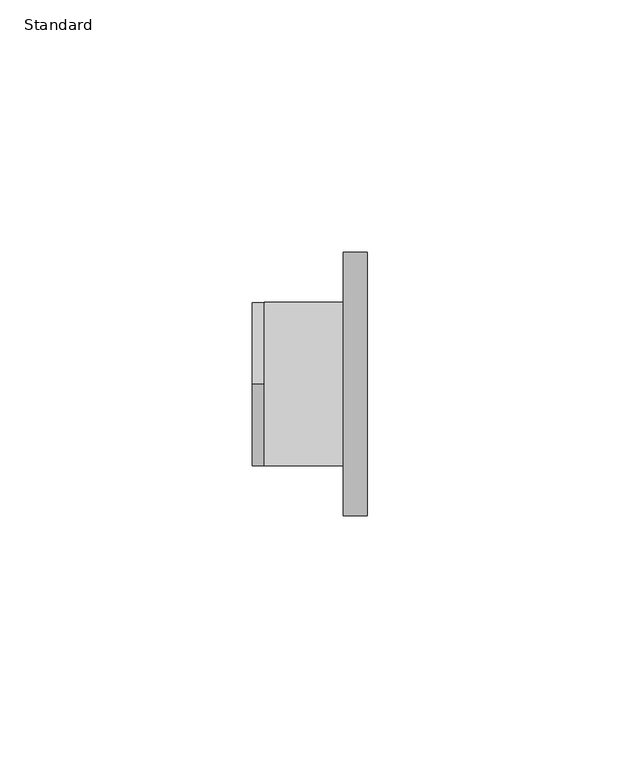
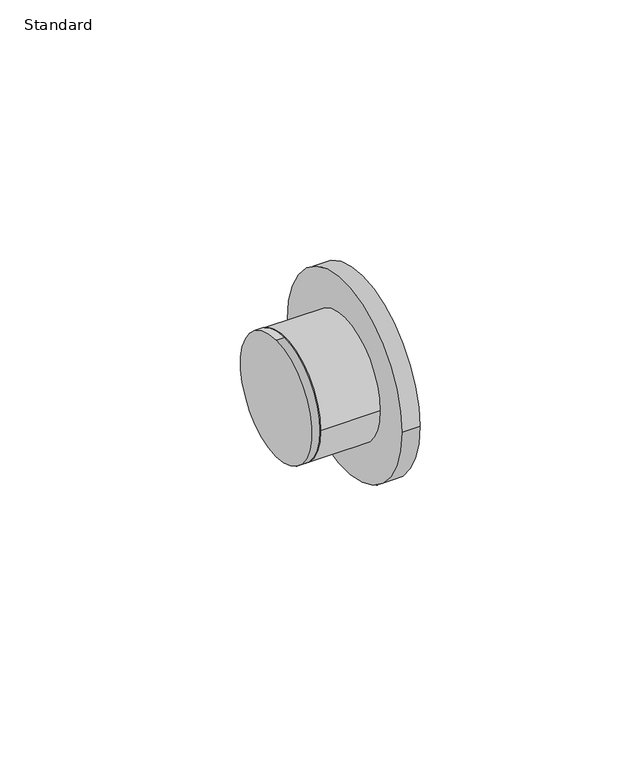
"""IFC4 building model written with IfcOpenShell, lengths in millimetres: pipe fitting geometry, Reducion Bushing_Lubrizol_CPVC_FlowGuard_MX : Standard."""

from ifc_helpers import new_model, si_unit, point, frame, origin, origin_2d, place, context, project, spatial, circle_curve, trimmed, segment, composite_curve, outline, extrude, source, transform, mapped, element, save


def standard_7a745ed6(model_context):
    return source(origin(), model_context, "Body", "SweptSolid", [
        extrude(outline(composite_curve([segment(trimmed(circle_curve(origin_2d(), 16.23), [point((-16.23, 0.0))], [point((16.23, 0.0))], False, "CARTESIAN"), True, "CONTINUOUS"), segment(trimmed(circle_curve(origin_2d(), 16.23), [point((16.23, 0.0))], [point((-16.23, 0.0))], False, "CARTESIAN"), True, "CONTINUOUS")], self_intersect=False)), frame((2.375, 0.0, 0.0), z_axis=(1.0, 0.0, 0.0), x_axis=(0.0, 1.0, 0.0)), (0.0, 0.0, 1.0), 15.694),
        extrude(outline(composite_curve([segment(trimmed(circle_curve(origin_2d(), 26.11), [point((-26.11, 0.0))], [point((26.11, 0.0))], False, "CARTESIAN"), True, "CONTINUOUS"), segment(trimmed(circle_curve(origin_2d(), 26.11), [point((26.11, 0.0))], [point((-26.11, 0.0))], False, "CARTESIAN"), True, "CONTINUOUS")], self_intersect=False)), frame((18.069, 0.0, 0.0), z_axis=(1.0, 0.0, 0.0), x_axis=(0.0, 1.0, 0.0)), (0.0, 0.0, 1.0), 4.75),
        extrude(outline(composite_curve([segment(trimmed(circle_curve(origin_2d(), 16.23), [point((0.0, 16.23))], [point((0.0, -16.23))], False, "CARTESIAN"), True, "CONTINUOUS"), segment(trimmed(circle_curve(origin_2d(), 16.23), [point((0.0, -16.23))], [point((0.0, 16.23))], False, "CARTESIAN"), True, "CONTINUOUS")], self_intersect=False)), frame((0.0, 0.0, 0.0), z_axis=(1.0, 0.0, 0.0), x_axis=(0.0, 1.0, 0.0)), (0.0, 0.0, 1.0), 2.375),
    ])


if __name__ == "__main__":
    model = new_model("IFC4")
    model_context = context("Model", 3, world=origin())
    ifc_project = project(units=[si_unit("LENGTHUNIT", "METRE", prefix="MILLI")], contexts=[model_context])
    site = spatial("IfcSite", under=ifc_project)
    building = spatial("IfcBuilding", under=site)
    placement = place(None, origin())
    standard_shape = standard_7a745ed6(model_context)
    element("IfcPipeFitting", 1, ObjectType="Reducion Bushing_Lubrizol_CPVC_FlowGuard_MX : Standard", at=placement, inside=building, context=model_context, shape_type="MappedRepresentation", body=[
        mapped(standard_shape, transform((0.0, 0.0, 0.0), x_axis=(1.0, 0.0, 0.0), y_axis=(0.0, 1.0, 0.0), z_axis=(0.0, 0.0, 1.0))),
    ])
    save(model, "model.ifc")
